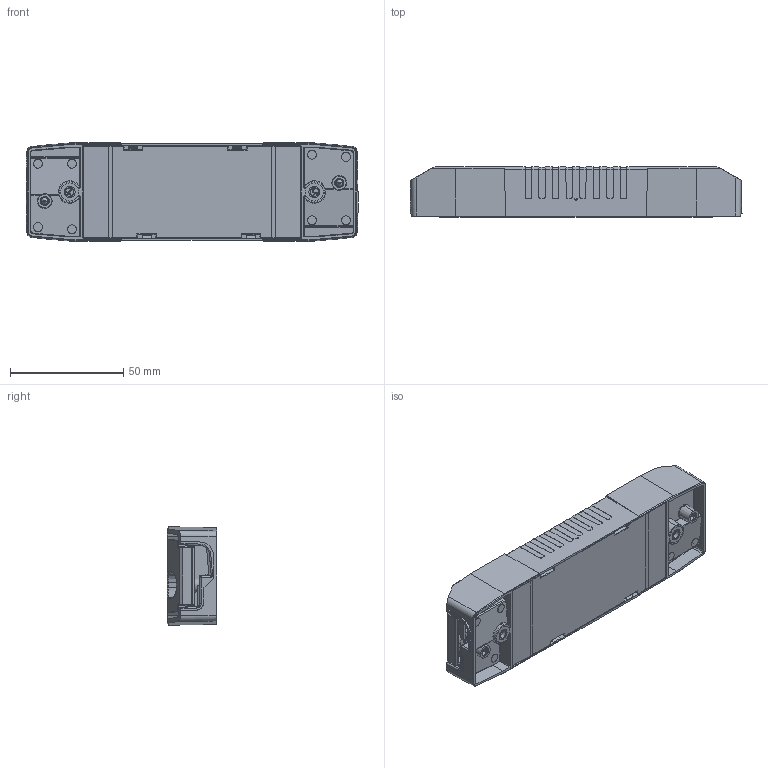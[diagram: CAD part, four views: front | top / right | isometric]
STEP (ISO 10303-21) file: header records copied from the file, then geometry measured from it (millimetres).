
FILE_DESCRIPTION (( 'STEP AP214' ), '1' );
FILE_NAME ('Proflat Dali_Nfc.STEP', '2021-11-02T11:08:44', ( '' ), ( '' ), 'SwSTEP 2.0', 'SolidWorks 2021', '' );
FILE_SCHEMA (( 'AUTOMOTIVE_DESIGN' ));
Length unit declared in the file: millimetre
Products named in the file (7): Clamp PRI BL804-488787504; Clamp SEC BL805-488787505; TE1861-PT3+Scheda; Cover BL803-488787503; VITE; Base BL802-488787502; Proflat Dali_Nfc
Assembly tree (7 placements, depth 2):
  Proflat Dali_Nfc
    Base BL802-488787502
    Clamp SEC BL805-488787505
    Clamp PRI BL804-488787504
    TE1861-PT3+Scheda
    Cover BL803-488787503
    VITE  x2
Bounding box: 146.55 x 22 x 43.44 mm (x, y, z)
Volume: 44216 mm3; surface area: 64060.3 mm2
Topology: 11 solids, 11 shells, 3389 faces, 8958 edges, 5714 vertices
Faces by surface type: plane 1537, cylinder 957, bspline 743, sphere 54, cone 50, torus 48
Entity records: 147108 total; most frequent: CARTESIAN_POINT 65885, ORIENTED_EDGE 17352, DIRECTION 13025, EDGE_CURVE 8676, VERTEX_POINT 5542, LINE 5089, VECTOR 5089, AXIS2_PLACEMENT_3D 3968
